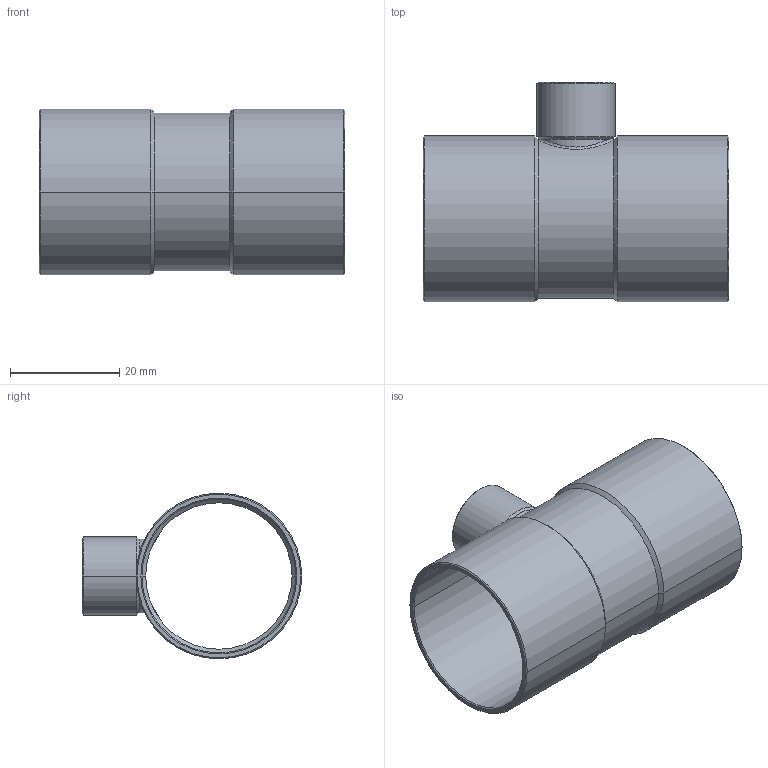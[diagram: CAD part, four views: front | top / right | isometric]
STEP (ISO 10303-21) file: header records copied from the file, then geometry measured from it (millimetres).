
FILE_DESCRIPTION((''),'2;1');
FILE_NAME('G:\Technics\CAD\Bauteile\15130\15130281228.stp','2005-11-02T10:19:44',('boden'),(''),'Autodesk Inventor 8','Autodesk Inventor 8','');
FILE_SCHEMA(('AUTOMOTIVE_DESIGN { 1 0 10303 214 1 1 1 1 }'));
Length unit declared in the file: millimetre
Products named in the file (1): 15130281228
Bounding box: 56 x 40.17 x 30.35 mm (x, y, z)
Volume: 6031.8 mm3; surface area: 11183.8 mm2
Topology: 1 solids, 1 shells, 48 faces, 108 edges, 61 vertices
Faces by surface type: cone 24, cylinder 20, plane 3, bspline 1
Entity records: 1600 total; most frequent: CARTESIAN_POINT 503, DIRECTION 236, ORIENTED_EDGE 216, EDGE_CURVE 108, AXIS2_PLACEMENT_3D 97, VERTEX_POINT 61, EDGE_LOOP 51, CIRCLE 49
